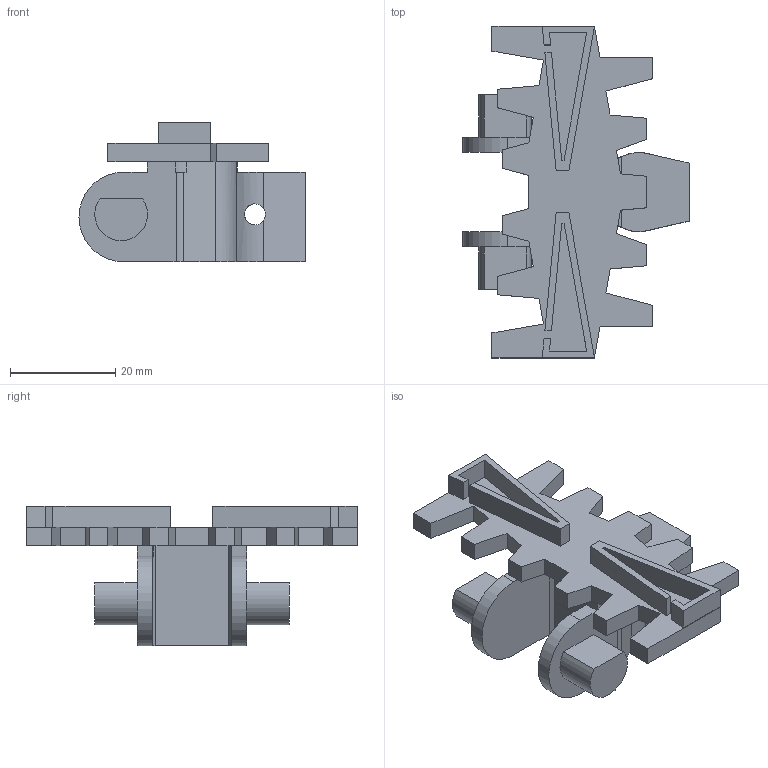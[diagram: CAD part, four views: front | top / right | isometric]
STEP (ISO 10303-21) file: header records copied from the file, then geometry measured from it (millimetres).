
FILE_DESCRIPTION (( 'STEP AP214' ), '1' );
FILE_NAME ('FSCT-5A-H4-P.STEP', '2011-09-28T07:26:12', ( '.' ), ( '' ), 'SwSTEP 2.0', 'SolidWorks 2010', '' );
FILE_SCHEMA (( 'AUTOMOTIVE_DESIGN' ));
Length unit declared in the file: millimetre
Products named in the file (1): FSCT-5A-H4-P
Bounding box: 42.9 x 63 x 26.5 mm (x, y, z)
Volume: 14035.3 mm3; surface area: 8445.4 mm2
Topology: 1 solids, 1 shells, 115 faces, 333 edges, 220 vertices
Faces by surface type: plane 101, cylinder 14
Entity records: 3849 total; most frequent: CARTESIAN_POINT 767, ORIENTED_EDGE 666, DIRECTION 585, EDGE_CURVE 333, VECTOR 297, LINE 297, VERTEX_POINT 220, AXIS2_PLACEMENT_3D 144
